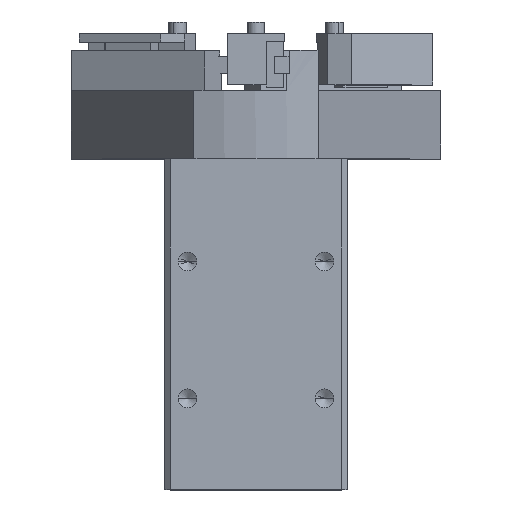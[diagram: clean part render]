
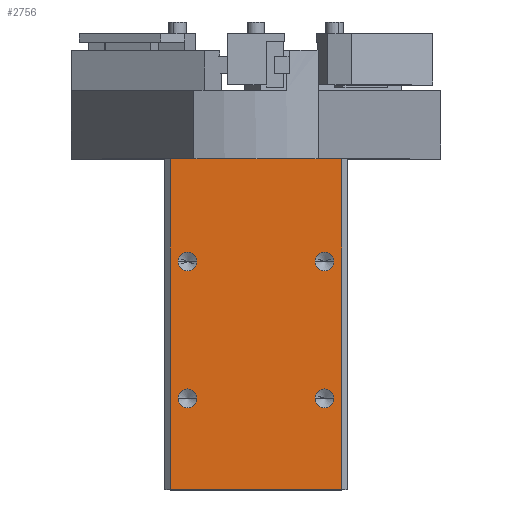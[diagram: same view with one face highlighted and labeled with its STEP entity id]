
A CAD part, top view. The second image highlights one B-rep face of the part: STEP entity #2756.
In plain terms, the highlighted planar face has unit normal (0, 0, 1) as drawn and (-1, 0, 0) by its records, which use the part's own axes.
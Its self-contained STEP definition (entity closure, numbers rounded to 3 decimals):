
#304 = VERTEX_POINT ( 'NONE', #4394 ) ;
#2154 = ORIENTED_EDGE ( 'NONE', *, *, #7913, .F. ) ;
#2155 = EDGE_CURVE ( 'NONE', #7882, #7880, #9069, .T. ) ;
#2156 = EDGE_LOOP ( 'NONE', ( #2815, #2782 ) ) ;
#2157 = EDGE_LOOP ( 'NONE', ( #2158, #2154 ) ) ;
#2158 = ORIENTED_EDGE ( 'NONE', *, *, #2155, .F. ) ;
#2171 = ORIENTED_EDGE ( 'NONE', *, *, #2172, .T. ) ;
#2172 = EDGE_CURVE ( 'NONE', #2174, #2185, #9109, .T. ) ;
#2174 = VERTEX_POINT ( 'NONE', #9104 ) ;
#2175 = ORIENTED_EDGE ( 'NONE', *, *, #2178, .F. ) ;
#2177 = VERTEX_POINT ( 'NONE', #9140 ) ;
#2178 = EDGE_CURVE ( 'NONE', #2174, #2177, #9139, .T. ) ;
#2180 = VERTEX_POINT ( 'NONE', #9134 ) ;
#2182 = ORIENTED_EDGE ( 'NONE', *, *, #2183, .T. ) ;
#2183 = EDGE_CURVE ( 'NONE', #2180, #2177, #9133, .T. ) ;
#2185 = VERTEX_POINT ( 'NONE', #9124 ) ;
#2186 = ORIENTED_EDGE ( 'NONE', *, *, #2187, .T. ) ;
#2187 = EDGE_CURVE ( 'NONE', #2185, #2180, #9122, .T. ) ;
#2705 = ORIENTED_EDGE ( 'NONE', *, *, #7655, .F. ) ;
#2710 = ORIENTED_EDGE ( 'NONE', *, *, #2725, .F. ) ;
#2713 = EDGE_LOOP ( 'NONE', ( #2710, #2705 ) ) ;
#2725 = EDGE_CURVE ( 'NONE', #7688, #4748, #10740, .T. ) ;
#2756 = ADVANCED_FACE ( 'NONE', ( #10832, #10831, #10830, #10829, #10828 ), #10813, .F. ) ;
#2768 = ORIENTED_EDGE ( 'NONE', *, *, #9857, .F. ) ;
#2771 = EDGE_LOOP ( 'NONE', ( #2186, #2182, #2175, #2171 ) ) ;
#2777 = EDGE_LOOP ( 'NONE', ( #2779, #2768 ) ) ;
#2778 = EDGE_CURVE ( 'NONE', #9859, #10701, #10896, .T. ) ;
#2779 = ORIENTED_EDGE ( 'NONE', *, *, #2778, .F. ) ;
#2782 = ORIENTED_EDGE ( 'NONE', *, *, #9706, .F. ) ;
#2815 = ORIENTED_EDGE ( 'NONE', *, *, #2816, .F. ) ;
#2816 = EDGE_CURVE ( 'NONE', #9538, #304, #10978, .T. ) ;
#4394 = CARTESIAN_POINT ( 'NONE',  ( -23., 18., -13.65 ) ) ;
#4748 = VERTEX_POINT ( 'NONE', #13816 ) ;
#7655 = EDGE_CURVE ( 'NONE', #4748, #7688, #14062, .T. ) ;
#7688 = VERTEX_POINT ( 'NONE', #14057 ) ;
#7880 = VERTEX_POINT ( 'NONE', #14121 ) ;
#7882 = VERTEX_POINT ( 'NONE', #14120 ) ;
#7913 = EDGE_CURVE ( 'NONE', #7880, #7882, #14119, .T. ) ;
#9066 = DIRECTION ( 'NONE',  ( 0., 0., 1. ) ) ;
#9067 = DIRECTION ( 'NONE',  ( -1., 0., 0. ) ) ;
#9068 = AXIS2_PLACEMENT_3D ( 'NONE', #9074, #9067, #9066 ) ;
#9069 = CIRCLE ( 'NONE', #9068, 1.65 ) ;
#9074 = CARTESIAN_POINT ( 'NONE',  ( -23., 18., 12. ) ) ;
#9104 = CARTESIAN_POINT ( 'NONE',  ( -23., 0., 15. ) ) ;
#9106 = DIRECTION ( 'NONE',  ( 0., 1., 0. ) ) ;
#9107 = VECTOR ( 'NONE', #9106, 1000. ) ;
#9108 = CARTESIAN_POINT ( 'NONE',  ( -23., 58., 15. ) ) ;
#9109 = LINE ( 'NONE', #9108, #9107 ) ;
#9119 = DIRECTION ( 'NONE',  ( 0., 0., -1. ) ) ;
#9120 = VECTOR ( 'NONE', #9119, 1000. ) ;
#9121 = CARTESIAN_POINT ( 'NONE',  ( -23., 58., 16. ) ) ;
#9122 = LINE ( 'NONE', #9121, #9120 ) ;
#9124 = CARTESIAN_POINT ( 'NONE',  ( -23., 58., 15. ) ) ;
#9130 = DIRECTION ( 'NONE',  ( 0., -1., 0. ) ) ;
#9131 = VECTOR ( 'NONE', #9130, 1000. ) ;
#9132 = CARTESIAN_POINT ( 'NONE',  ( -23., 0., -15. ) ) ;
#9133 = LINE ( 'NONE', #9132, #9131 ) ;
#9134 = CARTESIAN_POINT ( 'NONE',  ( -23., 58., -15. ) ) ;
#9136 = DIRECTION ( 'NONE',  ( 0., 0., -1. ) ) ;
#9137 = VECTOR ( 'NONE', #9136, 1000. ) ;
#9138 = CARTESIAN_POINT ( 'NONE',  ( -23., 0., 16. ) ) ;
#9139 = LINE ( 'NONE', #9138, #9137 ) ;
#9140 = CARTESIAN_POINT ( 'NONE',  ( -23., 0., -15. ) ) ;
#9538 = VERTEX_POINT ( 'NONE', #14258 ) ;
#9706 = EDGE_CURVE ( 'NONE', #304, #9538, #14327, .T. ) ;
#9857 = EDGE_CURVE ( 'NONE', #10701, #9859, #14319, .T. ) ;
#9859 = VERTEX_POINT ( 'NONE', #14314 ) ;
#10701 = VERTEX_POINT ( 'NONE', #14419 ) ;
#10736 = DIRECTION ( 'NONE',  ( 0., 0., 1. ) ) ;
#10737 = DIRECTION ( 'NONE',  ( -1., 0., 0. ) ) ;
#10738 = CARTESIAN_POINT ( 'NONE',  ( -23., 42., 12. ) ) ;
#10739 = AXIS2_PLACEMENT_3D ( 'NONE', #10738, #10737, #10736 ) ;
#10740 = CIRCLE ( 'NONE', #10739, 1.65 ) ;
#10810 = DIRECTION ( 'NONE',  ( 1., 0., 0. ) ) ;
#10811 = CARTESIAN_POINT ( 'NONE',  ( -23., 0., 16. ) ) ;
#10812 = AXIS2_PLACEMENT_3D ( 'NONE', #10811, #10810, #10878 ) ;
#10813 = PLANE ( 'NONE',  #10812 ) ;
#10828 = FACE_OUTER_BOUND ( 'NONE', #2771, .T. ) ;
#10829 = FACE_BOUND ( 'NONE', #2777, .T. ) ;
#10830 = FACE_BOUND ( 'NONE', #2156, .T. ) ;
#10831 = FACE_BOUND ( 'NONE', #2157, .T. ) ;
#10832 = FACE_BOUND ( 'NONE', #2713, .T. ) ;
#10878 = DIRECTION ( 'NONE',  ( 0., 0., -1. ) ) ;
#10892 = DIRECTION ( 'NONE',  ( 0., 0., 1. ) ) ;
#10893 = DIRECTION ( 'NONE',  ( -1., 0., 0. ) ) ;
#10894 = CARTESIAN_POINT ( 'NONE',  ( -23., 42., -12. ) ) ;
#10895 = AXIS2_PLACEMENT_3D ( 'NONE', #10894, #10893, #10892 ) ;
#10896 = CIRCLE ( 'NONE', #10895, 1.65 ) ;
#10973 = DIRECTION ( 'NONE',  ( 0., 0., 1. ) ) ;
#10974 = DIRECTION ( 'NONE',  ( -1., 0., 0. ) ) ;
#10975 = CARTESIAN_POINT ( 'NONE',  ( -23., 18., -12. ) ) ;
#10976 = AXIS2_PLACEMENT_3D ( 'NONE', #10975, #10974, #10973 ) ;
#10978 = CIRCLE ( 'NONE', #10976, 1.65 ) ;
#13816 = CARTESIAN_POINT ( 'NONE',  ( -23., 42., 10.35 ) ) ;
#14057 = CARTESIAN_POINT ( 'NONE',  ( -23., 42., 13.65 ) ) ;
#14058 = DIRECTION ( 'NONE',  ( 0., 0., 1. ) ) ;
#14059 = DIRECTION ( 'NONE',  ( -1., 0., 0. ) ) ;
#14060 = CARTESIAN_POINT ( 'NONE',  ( -23., 42., 12. ) ) ;
#14061 = AXIS2_PLACEMENT_3D ( 'NONE', #14060, #14059, #14058 ) ;
#14062 = CIRCLE ( 'NONE', #14061, 1.65 ) ;
#14115 = DIRECTION ( 'NONE',  ( 0., 0., 1. ) ) ;
#14116 = DIRECTION ( 'NONE',  ( -1., 0., 0. ) ) ;
#14117 = CARTESIAN_POINT ( 'NONE',  ( -23., 18., 12. ) ) ;
#14118 = AXIS2_PLACEMENT_3D ( 'NONE', #14117, #14116, #14115 ) ;
#14119 = CIRCLE ( 'NONE', #14118, 1.65 ) ;
#14120 = CARTESIAN_POINT ( 'NONE',  ( -23., 18., 13.65 ) ) ;
#14121 = CARTESIAN_POINT ( 'NONE',  ( -23., 18., 10.35 ) ) ;
#14258 = CARTESIAN_POINT ( 'NONE',  ( -23., 18., -10.35 ) ) ;
#14314 = CARTESIAN_POINT ( 'NONE',  ( -23., 42., -10.35 ) ) ;
#14315 = DIRECTION ( 'NONE',  ( 0., 0., 1. ) ) ;
#14316 = DIRECTION ( 'NONE',  ( -1., 0., 0. ) ) ;
#14317 = CARTESIAN_POINT ( 'NONE',  ( -23., 42., -12. ) ) ;
#14318 = AXIS2_PLACEMENT_3D ( 'NONE', #14317, #14316, #14315 ) ;
#14319 = CIRCLE ( 'NONE', #14318, 1.65 ) ;
#14323 = DIRECTION ( 'NONE',  ( 0., 0., 1. ) ) ;
#14324 = DIRECTION ( 'NONE',  ( -1., 0., 0. ) ) ;
#14325 = CARTESIAN_POINT ( 'NONE',  ( -23., 18., -12. ) ) ;
#14326 = AXIS2_PLACEMENT_3D ( 'NONE', #14325, #14324, #14323 ) ;
#14327 = CIRCLE ( 'NONE', #14326, 1.65 ) ;
#14419 = CARTESIAN_POINT ( 'NONE',  ( -23., 42., -13.65 ) ) ;
